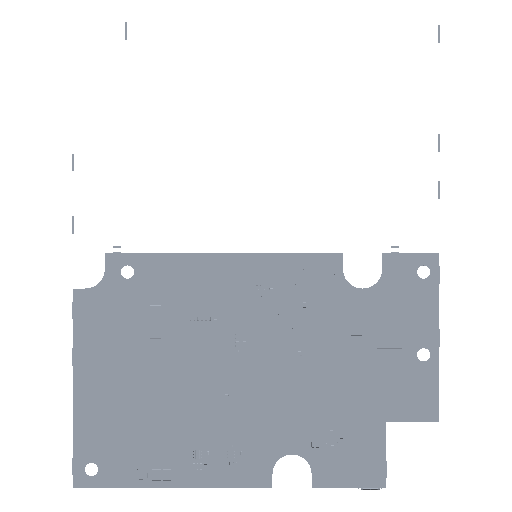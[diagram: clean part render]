
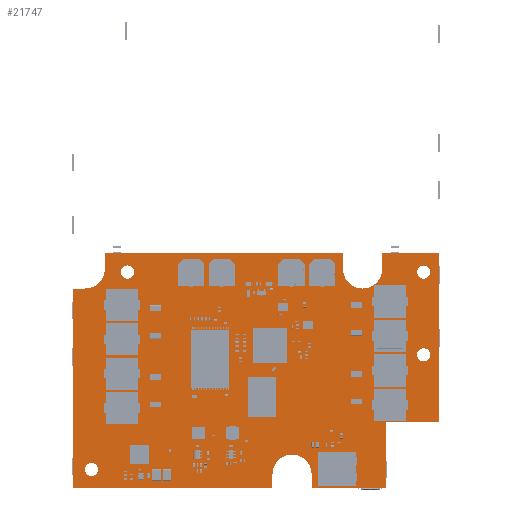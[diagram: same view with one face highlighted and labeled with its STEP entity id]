
A CAD part, top view. The second image highlights one B-rep face of the part: STEP entity #21747.
In plain terms, the highlighted planar face has unit normal (0, 0, 1).
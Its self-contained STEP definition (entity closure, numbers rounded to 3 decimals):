
#21747=ADVANCED_FACE('',(#36479,#36480,#36481,#36482,#36483),#36484,.T.);
#36479=FACE_BOUND('',#52338,.T.);
#36480=FACE_BOUND('',#52339,.T.);
#36481=FACE_BOUND('',#52340,.T.);
#36482=FACE_BOUND('',#52341,.T.);
#36483=FACE_OUTER_BOUND('',#52342,.T.);
#36484=PLANE('',#52343);
#52338=EDGE_LOOP('',(#72158));
#52339=EDGE_LOOP('',(#72159));
#52340=EDGE_LOOP('',(#72160));
#52341=EDGE_LOOP('',(#72161));
#52342=EDGE_LOOP('',(#72162,#72163,#72164,#72165,#72166,#72167,#72168,#72169,#72170,#72171,#72172,#72173,#72174,#72175,#72176,#72177,#72178));
#52343=AXIS2_PLACEMENT_3D('',#72179,#72180,#72181);
#72158=ORIENTED_EDGE('',*,*,#95228,.T.);
#72159=ORIENTED_EDGE('',*,*,#95231,.T.);
#72160=ORIENTED_EDGE('',*,*,#95234,.T.);
#72161=ORIENTED_EDGE('',*,*,#95237,.T.);
#72162=ORIENTED_EDGE('',*,*,#95240,.T.);
#72163=ORIENTED_EDGE('',*,*,#95241,.T.);
#72164=ORIENTED_EDGE('',*,*,#95242,.T.);
#72165=ORIENTED_EDGE('',*,*,#95243,.T.);
#72166=ORIENTED_EDGE('',*,*,#95244,.T.);
#72167=ORIENTED_EDGE('',*,*,#95245,.T.);
#72168=ORIENTED_EDGE('',*,*,#95246,.T.);
#72169=ORIENTED_EDGE('',*,*,#95247,.T.);
#72170=ORIENTED_EDGE('',*,*,#95248,.T.);
#72171=ORIENTED_EDGE('',*,*,#95249,.T.);
#72172=ORIENTED_EDGE('',*,*,#95250,.T.);
#72173=ORIENTED_EDGE('',*,*,#95251,.T.);
#72174=ORIENTED_EDGE('',*,*,#95252,.T.);
#72175=ORIENTED_EDGE('',*,*,#95253,.T.);
#72176=ORIENTED_EDGE('',*,*,#95254,.T.);
#72177=ORIENTED_EDGE('',*,*,#95255,.T.);
#72178=ORIENTED_EDGE('',*,*,#95256,.T.);
#72179=CARTESIAN_POINT('',(60.073,37.977,1.6));
#72180=DIRECTION('',(0.,0.,1.0));
#72181=DIRECTION('',(1.0,0.0,0.));
#95228=EDGE_CURVE('',#113349,#113349,#113350,.T.);
#95231=EDGE_CURVE('',#113354,#113354,#113355,.T.);
#95234=EDGE_CURVE('',#113359,#113359,#113360,.T.);
#95237=EDGE_CURVE('',#113364,#113364,#113365,.T.);
#95240=EDGE_CURVE('',#113369,#113370,#113371,.T.);
#95241=EDGE_CURVE('',#113370,#113372,#113373,.T.);
#95242=EDGE_CURVE('',#113372,#113374,#113375,.T.);
#95243=EDGE_CURVE('',#113374,#113376,#113377,.T.);
#95244=EDGE_CURVE('',#113376,#113378,#113379,.T.);
#95245=EDGE_CURVE('',#113378,#113380,#113381,.T.);
#95246=EDGE_CURVE('',#113380,#113382,#113383,.T.);
#95247=EDGE_CURVE('',#113382,#113384,#113385,.T.);
#95248=EDGE_CURVE('',#113384,#113386,#113387,.T.);
#95249=EDGE_CURVE('',#113386,#113388,#113389,.T.);
#95250=EDGE_CURVE('',#113388,#113390,#113391,.T.);
#95251=EDGE_CURVE('',#113390,#113392,#113393,.T.);
#95252=EDGE_CURVE('',#113392,#113394,#113395,.T.);
#95253=EDGE_CURVE('',#113394,#113396,#113397,.T.);
#95254=EDGE_CURVE('',#113396,#113398,#113399,.T.);
#95255=EDGE_CURVE('',#113398,#113400,#113401,.T.);
#95256=EDGE_CURVE('',#113400,#113369,#113402,.T.);
#113349=VERTEX_POINT('',#138459);
#113350=CIRCLE('',#138460,2.1);
#113354=VERTEX_POINT('',#138464);
#113355=CIRCLE('',#138465,2.1);
#113359=VERTEX_POINT('',#138469);
#113360=CIRCLE('',#138470,2.1);
#113364=VERTEX_POINT('',#138474);
#113365=CIRCLE('',#138475,2.1);
#113369=VERTEX_POINT('',#138479);
#113370=VERTEX_POINT('',#138480);
#113371=LINE('',#138481,#138482);
#113372=VERTEX_POINT('',#138483);
#113373=LINE('',#138484,#138485);
#113374=VERTEX_POINT('',#138486);
#113375=CIRCLE('',#138487,6.25);
#113376=VERTEX_POINT('',#138488);
#113377=LINE('',#138489,#138490);
#113378=VERTEX_POINT('',#138491);
#113379=LINE('',#138492,#138493);
#113380=VERTEX_POINT('',#138494);
#113381=LINE('',#138495,#138496);
#113382=VERTEX_POINT('',#138497);
#113383=LINE('',#138498,#138499);
#113384=VERTEX_POINT('',#138500);
#113385=LINE('',#138501,#138502);
#113386=VERTEX_POINT('',#138503);
#113387=LINE('',#138504,#138505);
#113388=VERTEX_POINT('',#138506);
#113389=LINE('',#138507,#138508);
#113390=VERTEX_POINT('',#138509);
#113391=CIRCLE('',#138510,6.25);
#113392=VERTEX_POINT('',#138511);
#113393=LINE('',#138512,#138513);
#113394=VERTEX_POINT('',#138514);
#113395=LINE('',#138515,#138516);
#113396=VERTEX_POINT('',#138517);
#113397=LINE('',#138518,#138519);
#113398=VERTEX_POINT('',#138520);
#113399=CIRCLE('',#138521,6.25);
#113400=VERTEX_POINT('',#138522);
#113401=LINE('',#138523,#138524);
#113402=LINE('',#138525,#138526);
#138459=CARTESIAN_POINT('',(15.4,69.0,1.6));
#138460=AXIS2_PLACEMENT_3D('',#158700,#158701,#158702);
#138464=CARTESIAN_POINT('',(3.9,6.0,1.6));
#138465=AXIS2_PLACEMENT_3D('',#158706,#158707,#158708);
#138469=CARTESIAN_POINT('',(109.9,42.6,1.6));
#138470=AXIS2_PLACEMENT_3D('',#158712,#158713,#158714);
#138474=CARTESIAN_POINT('',(109.9,69.0,1.6));
#138475=AXIS2_PLACEMENT_3D('',#158718,#158719,#158720);
#138479=CARTESIAN_POINT('',(0.,0.,1.6));
#138480=CARTESIAN_POINT('',(63.75,0.,1.6));
#138481=CARTESIAN_POINT('',(31.875,0.,1.6));
#138482=VECTOR('',#158724,1.0);
#138483=CARTESIAN_POINT('',(63.75,4.5,1.6));
#138484=CARTESIAN_POINT('',(63.75,2.25,1.6));
#138485=VECTOR('',#158725,1.0);
#138486=CARTESIAN_POINT('',(76.25,4.5,1.6));
#138487=AXIS2_PLACEMENT_3D('',#158726,#158727,#158728);
#138488=CARTESIAN_POINT('',(76.25,0.,1.6));
#138489=CARTESIAN_POINT('',(76.25,2.25,1.6));
#138490=VECTOR('',#158729,1.0);
#138491=CARTESIAN_POINT('',(100.,0.,1.6));
#138492=CARTESIAN_POINT('',(88.125,0.,1.6));
#138493=VECTOR('',#158730,1.0);
#138494=CARTESIAN_POINT('',(100.,21.,1.6));
#138495=CARTESIAN_POINT('',(100.,10.5,1.6));
#138496=VECTOR('',#158731,1.0);
#138497=CARTESIAN_POINT('',(117.,21.,1.6));
#138498=CARTESIAN_POINT('',(108.5,21.,1.6));
#138499=VECTOR('',#158732,1.0);
#138500=CARTESIAN_POINT('',(117.,75.,1.6));
#138501=CARTESIAN_POINT('',(117.,48.,1.6));
#138502=VECTOR('',#158733,1.0);
#138503=CARTESIAN_POINT('',(98.75,75.,1.6));
#138504=CARTESIAN_POINT('',(107.875,75.,1.6));
#138505=VECTOR('',#158734,1.0);
#138506=CARTESIAN_POINT('',(98.75,70.,1.6));
#138507=CARTESIAN_POINT('',(98.75,72.5,1.6));
#138508=VECTOR('',#158735,1.0);
#138509=CARTESIAN_POINT('',(86.25,70.,1.6));
#138510=AXIS2_PLACEMENT_3D('',#158736,#158737,#158738);
#138511=CARTESIAN_POINT('',(86.25,75.,1.6));
#138512=CARTESIAN_POINT('',(86.25,72.5,1.6));
#138513=VECTOR('',#158739,1.0);
#138514=CARTESIAN_POINT('',(10.25,75.,1.6));
#138515=CARTESIAN_POINT('',(48.25,75.,1.6));
#138516=VECTOR('',#158740,1.0);
#138517=CARTESIAN_POINT('',(10.25,70.,1.6));
#138518=CARTESIAN_POINT('',(10.25,72.5,1.6));
#138519=VECTOR('',#158741,1.0);
#138520=CARTESIAN_POINT('',(4.,63.75,1.6));
#138521=AXIS2_PLACEMENT_3D('',#158742,#158743,#158744);
#138522=CARTESIAN_POINT('',(0.,63.75,1.6));
#138523=CARTESIAN_POINT('',(2.,63.75,1.6));
#138524=VECTOR('',#158745,1.0);
#138525=CARTESIAN_POINT('',(0.,31.875,1.6));
#138526=VECTOR('',#158746,1.0);
#158700=CARTESIAN_POINT('',(17.5,69.0,1.6));
#158701=DIRECTION('',(0.,0.,-1.0));
#158702=DIRECTION('',(-1.0,0.,0.));
#158706=CARTESIAN_POINT('',(6.0,6.0,1.6));
#158707=DIRECTION('',(0.,0.,-1.0));
#158708=DIRECTION('',(-1.0,0.,0.));
#158712=CARTESIAN_POINT('',(112.0,42.6,1.6));
#158713=DIRECTION('',(0.,0.,-1.0));
#158714=DIRECTION('',(-1.0,0.,0.));
#158718=CARTESIAN_POINT('',(112.0,69.0,1.6));
#158719=DIRECTION('',(0.,0.,-1.0));
#158720=DIRECTION('',(-1.0,0.,0.));
#158724=DIRECTION('',(1.0,0.0,0.0));
#158725=DIRECTION('',(0.0,1.0,0.0));
#158726=CARTESIAN_POINT('',(70.,4.5,1.6));
#158727=DIRECTION('',(0.0,0.0,-1.0));
#158728=DIRECTION('',(-1.0,0.0,0.0));
#158729=DIRECTION('',(0.,-1.0,0.0));
#158730=DIRECTION('',(1.0,0.0,0.0));
#158731=DIRECTION('',(0.0,1.0,0.0));
#158732=DIRECTION('',(1.0,0.0,0.0));
#158733=DIRECTION('',(0.0,1.0,0.0));
#158734=DIRECTION('',(-1.0,0.0,0.0));
#158735=DIRECTION('',(0.0,-1.0,0.0));
#158736=CARTESIAN_POINT('',(92.5,70.,1.6));
#158737=DIRECTION('',(0.0,0.0,-1.0));
#158738=DIRECTION('',(1.,0.,0.0));
#158739=DIRECTION('',(0.,1.,0.0));
#158740=DIRECTION('',(-1.0,0.0,0.0));
#158741=DIRECTION('',(0.,-1.0,0.0));
#158742=CARTESIAN_POINT('',(4.,70.,1.6));
#158743=DIRECTION('',(0.0,0.0,-1.0));
#158744=DIRECTION('',(1.,0.,0.0));
#158745=DIRECTION('',(-1.0,0.0,0.0));
#158746=DIRECTION('',(0.0,-1.0,0.0));
